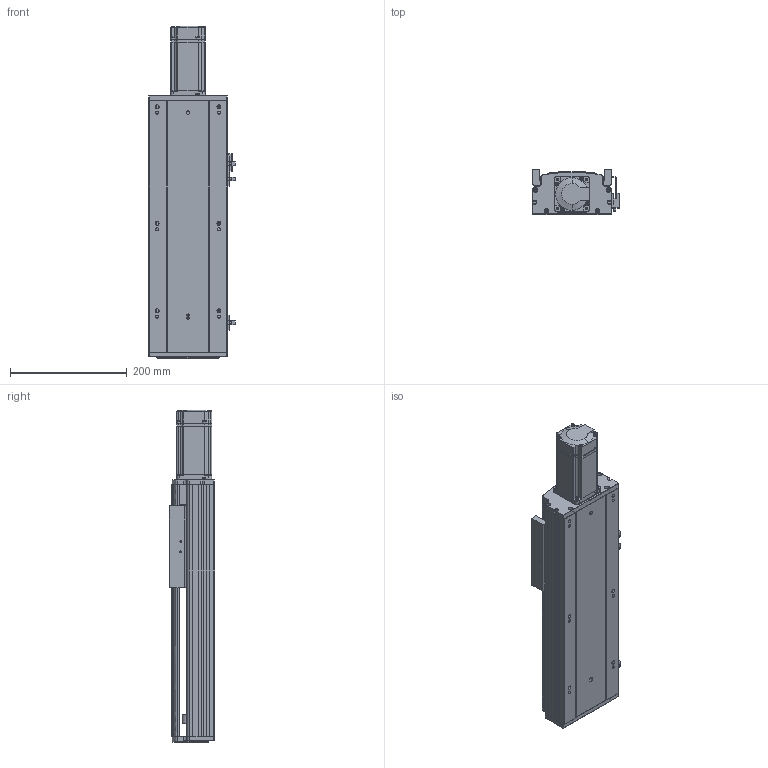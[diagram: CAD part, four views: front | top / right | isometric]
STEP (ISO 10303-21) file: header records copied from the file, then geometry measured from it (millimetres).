
FILE_DESCRIPTION (( 'STEP AP203' ), '1' );
FILE_NAME ('RY140Q-L2010-700-MK.SLDASM_0200.step', '2021-05-27T03:21:23', ( '盈信电脑' ), ( '东莞市道滘镇水果街19号' ), 'SwSTEP 2.0', 'SolidWorks 2016', '' );
FILE_SCHEMA (( 'CONFIG_CONTROL_DESIGN' ));
Length unit declared in the file: millimetre
Products named in the file (14): RY140Q-700-MK倰第菁釱_0200; RY140ヶ裔啣; 覜茼ん672; RY140Q萇儂傷盓傅釱FK12(80.5酗M5); 鞠褒坶踡蹟譫BK12 ; RY140Q臏賑輸(20佪裝-J); RY140Q-L2010-700-MK.SLDASM_0200; RY120外置感应片(140共用）; 15; 侂狟400W侜督萇儂; RY140綴裔啣; RY140Q-700-MK倰第奻裔啣_0200; 滅袉蝶18-10; 滅袉蝶18-15
Assembly tree (16 placements, depth 3):
  RY140Q-L2010-700-MK.SLDASM_0200
    RY140Q-700-MK倰第菁釱_0200
    RY140Q臏賑輸(20佪裝-J)
    RY140Q-700-MK倰第奻裔啣_0200
    RY140ヶ裔啣
    侂狟400W侜督萇儂
      15
    鞠褒坶踡蹟譫BK12 
    RY140綴裔啣
    覜茼ん672  x3
    RY120外置感应片(140共用）
    RY140Q萇儂傷盓傅釱FK12(80.5酗M5)
    滅袉蝶18-10
    滅袉蝶18-15  x2
Bounding box: 148.7 x 78 x 569.5 mm (x, y, z)
Volume: 1931795.4 mm3; surface area: 625323.2 mm2
Topology: 15 solids, 15 shells, 1965 faces, 5392 edges, 3473 vertices
Faces by surface type: plane 1074, cylinder 646, cone 160, bspline 85
Entity records: 64871 total; most frequent: CARTESIAN_POINT 15586, ORIENTED_EDGE 10156, DIRECTION 9624, EDGE_CURVE 5078, LINE 3352, VECTOR 3352, VERTEX_POINT 3333, AXIS2_PLACEMENT_3D 3136
